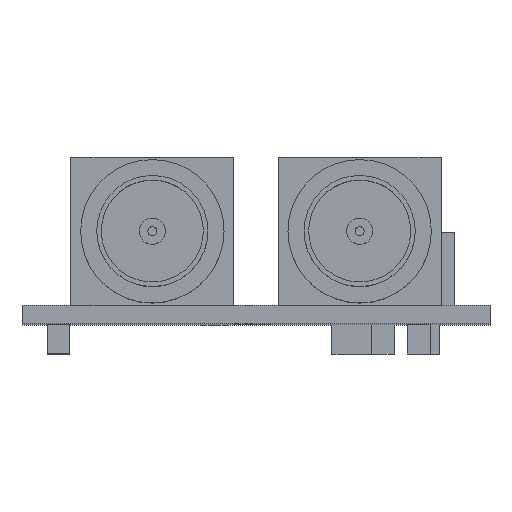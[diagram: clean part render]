
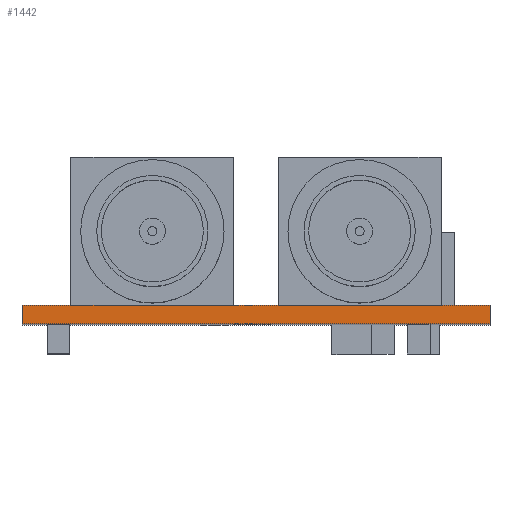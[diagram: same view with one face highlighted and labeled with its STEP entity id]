
A CAD part, top view. The second image highlights one B-rep face of the part: STEP entity #1442.
In plain terms, the highlighted planar face has unit normal (0, 0, 1).
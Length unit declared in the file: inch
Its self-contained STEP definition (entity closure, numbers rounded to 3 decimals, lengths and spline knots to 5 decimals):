
#18 = VECTOR ( 'NONE', #1697, 39.37008 ) ;
#21 = CARTESIAN_POINT ( 'NONE',  ( -0.79, 0.0625, 1.065 ) ) ;
#127 = LINE ( 'NONE', #1680, #18 ) ;
#158 = FACE_OUTER_BOUND ( 'NONE', #1075, .T. ) ;
#258 = VERTEX_POINT ( 'NONE', #1125 ) ;
#270 = DIRECTION ( 'NONE',  ( 1., 0., 0. ) ) ;
#284 = EDGE_CURVE ( 'NONE', #1865, #1080, #1349, .T. ) ;
#372 = CARTESIAN_POINT ( 'NONE',  ( -0.79, 0.0625, 1.065 ) ) ;
#390 = CARTESIAN_POINT ( 'NONE',  ( -0.79, 0., 1.065 ) ) ;
#418 = EDGE_CURVE ( 'NONE', #1080, #258, #1412, .T. ) ;
#441 = VECTOR ( 'NONE', #1154, 39.37008 ) ;
#615 = DIRECTION ( 'NONE',  ( 1., 0., 0. ) ) ;
#656 = ORIENTED_EDGE ( 'NONE', *, *, #1277, .F. ) ;
#691 = VERTEX_POINT ( 'NONE', #1667 ) ;
#923 = DIRECTION ( 'NONE',  ( -1., 0., 0. ) ) ;
#935 = DIRECTION ( 'NONE',  ( 0., 0., -1. ) ) ;
#1075 = EDGE_LOOP ( 'NONE', ( #2369, #656, #1842, #2531 ) ) ;
#1080 = VERTEX_POINT ( 'NONE', #1369 ) ;
#1125 = CARTESIAN_POINT ( 'NONE',  ( 0.79, 0., 1.065 ) ) ;
#1154 = DIRECTION ( 'NONE',  ( 0., -1., 0. ) ) ;
#1277 = EDGE_CURVE ( 'NONE', #691, #258, #127, .T. ) ;
#1349 = LINE ( 'NONE', #372, #441 ) ;
#1367 = PLANE ( 'NONE',  #2094 ) ;
#1369 = CARTESIAN_POINT ( 'NONE',  ( -0.79, 0., 1.065 ) ) ;
#1412 = LINE ( 'NONE', #390, #1535 ) ;
#1442 = ADVANCED_FACE ( 'NONE', ( #158 ), #1367, .F. ) ;
#1535 = VECTOR ( 'NONE', #615, 39.37008 ) ;
#1666 = LINE ( 'NONE', #2457, #2423 ) ;
#1667 = CARTESIAN_POINT ( 'NONE',  ( 0.79, 0.0625, 1.065 ) ) ;
#1680 = CARTESIAN_POINT ( 'NONE',  ( 0.79, 0.0625, 1.065 ) ) ;
#1697 = DIRECTION ( 'NONE',  ( 0., -1., 0. ) ) ;
#1842 = ORIENTED_EDGE ( 'NONE', *, *, #2498, .F. ) ;
#1865 = VERTEX_POINT ( 'NONE', #21 ) ;
#2094 = AXIS2_PLACEMENT_3D ( 'NONE', #2119, #935, #923 ) ;
#2119 = CARTESIAN_POINT ( 'NONE',  ( -0.79, 0.0625, 1.065 ) ) ;
#2369 = ORIENTED_EDGE ( 'NONE', *, *, #418, .T. ) ;
#2423 = VECTOR ( 'NONE', #270, 39.37008 ) ;
#2457 = CARTESIAN_POINT ( 'NONE',  ( -0.79, 0.0625, 1.065 ) ) ;
#2498 = EDGE_CURVE ( 'NONE', #1865, #691, #1666, .T. ) ;
#2531 = ORIENTED_EDGE ( 'NONE', *, *, #284, .T. ) ;
